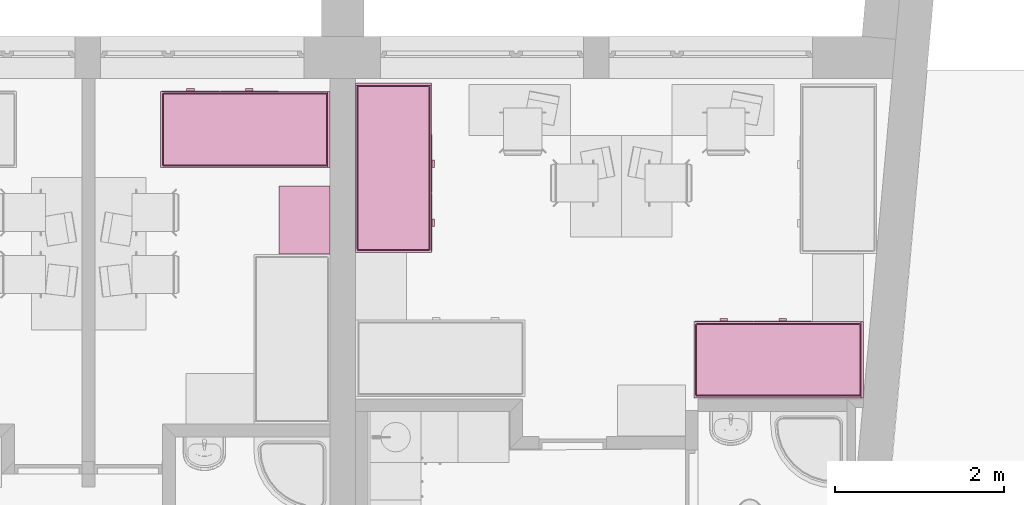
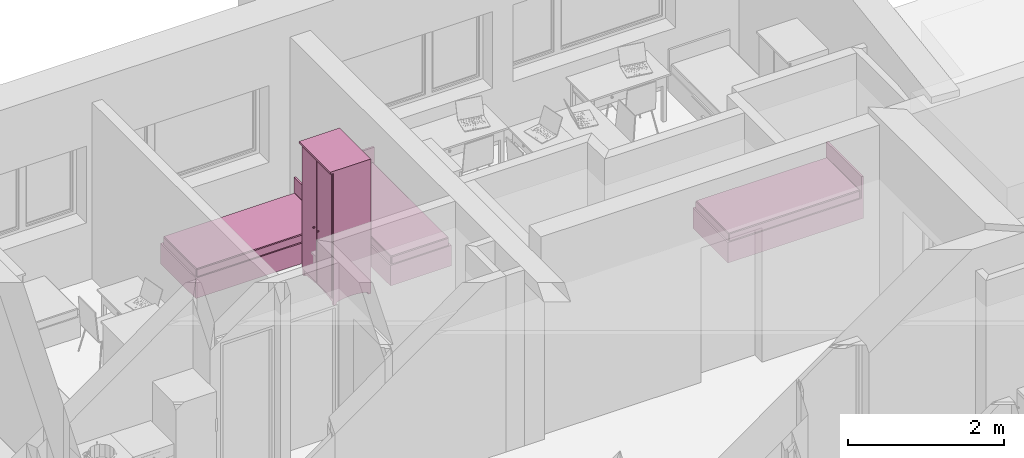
# One storey, part 152 of 172: 4 furnishings.
"""IFC2X3 building model written with IfcOpenShell, lengths in millimetres."""

from ifc_helpers import new_model, entity, si_unit, converted_unit, money_unit, direction, frame, origin_with_axes, place, context, subcontext, project, spatial, faceted_brep, source, transform, mapped, material, material_list, type_object, element, save


model = new_model("IFC2X3")

# Units and contexts
model_context = context("Model", 3, precision=1e-05, world=origin_with_axes(), true_north=direction((0.0, 1.0)))
body_context = subcontext(model_context, "Body", "Model", "MODEL_VIEW")
ifc_project = project(units=[si_unit("LENGTHUNIT", "METRE", prefix="MILLI"), si_unit("AREAUNIT", "SQUARE_METRE"), si_unit("VOLUMEUNIT", "CUBIC_METRE"), converted_unit("PLANEANGLEUNIT", "DEGREE", entity("IfcPlaneAngleMeasure", 0.0174532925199), si_unit("PLANEANGLEUNIT", "RADIAN"), dimensions=[0, 0, 0, 0, 0, 0, 0]), si_unit("SOLIDANGLEUNIT", "STERADIAN"), money_unit("USD"), converted_unit("TIMEUNIT", "Year", entity("IfcTimeMeasure", 31556926.0), si_unit("TIMEUNIT", "SECOND"), dimensions=[0, 0, 0, 0, 0, 0, 0]), si_unit("MASSUNIT", "GRAM"), si_unit("THERMODYNAMICTEMPERATUREUNIT", "DEGREE_CELSIUS"), si_unit("LUMINOUSINTENSITYUNIT", "LUMEN")], contexts=[model_context])

# Site, building, storey
site_placement = place(None, origin_with_axes())
site = spatial("IfcSite", under=ifc_project, at=site_placement, Name="Site", CompositionType="ELEMENT")
building_placement = place(site_placement, origin_with_axes())
building = spatial("IfcBuilding", under=site, at=building_placement, Name="Building", CompositionType="ELEMENT")
storey_placement = place(building_placement, frame((0.0, 0.0, 3200.0), z_axis=(0.0, 0.0, 1.0), x_axis=(1.0, 0.0, 0.0)))
storey = spatial("IfcBuildingStorey", under=building, at=storey_placement, Name="3KORRUS", CompositionType="ELEMENT", Elevation=3200.0)

# Furnishings
ifc_material = material(Name="Background")
ifc_material_list = material_list([ifc_material])
furnishing_element_type_1 = type_object("IfcFurnishingElementType", Name="Bed 19")
shared_shape_1 = source(origin_with_axes(), body_context, "Body", "Brep", [
    faceted_brep([(900.0, 1970.0, 0.0), (0.0, 1970.0, 0.0), (0.0, 2000.0, 0.0), (900.0, 2000.0, 0.0), (900.0, 1970.0, 660.0), (0.0, 1970.0, 660.0), (0.0, 2000.0, 660.0), (900.0, 2000.0, 660.0)], [[[0, 1, 2, 3]], [[1, 0, 4, 5]], [[2, 1, 5, 6]], [[3, 2, 6, 7]], [[0, 3, 7, 4]], [[5, 4, 7, 6]]]),
    faceted_brep([(900.0, 0.0, 0.0), (0.0, 0.0, 0.0), (0.0, 1970.0, 0.0), (900.0, 1970.0, 0.0), (900.0, 0.0, 320.0), (0.0, 0.0, 320.0), (0.0, 1970.0, 320.0), (900.0, 1970.0, 320.0)], [[[0, 1, 2, 3]], [[1, 0, 4, 5]], [[2, 1, 5, 6]], [[3, 2, 6, 7]], [[0, 3, 7, 4]], [[5, 4, 7, 6]]]),
    faceted_brep([(905.0, 10.0, 30.0), (900.0, 10.0, 30.0), (900.0, 695.0, 30.0), (905.0, 695.0, 30.0), (905.0, 10.0, 290.0), (900.0, 10.0, 290.0), (900.0, 695.0, 290.0), (905.0, 695.0, 290.0)], [[[0, 1, 2, 3]], [[1, 0, 4, 5]], [[2, 1, 5, 6]], [[3, 2, 6, 7]], [[0, 3, 7, 4]], [[5, 4, 7, 6]]]),
    faceted_brep([(935.0, 307.5, 150.0), (905.0, 307.5, 150.0), (905.0, 397.5, 150.0), (935.0, 397.5, 150.0), (935.0, 307.5, 170.0), (905.0, 307.5, 170.0), (905.0, 397.5, 170.0), (935.0, 397.5, 170.0)], [[[0, 1, 2, 3]], [[1, 0, 4, 5]], [[2, 1, 5, 6]], [[3, 2, 6, 7]], [[0, 3, 7, 4]], [[5, 4, 7, 6]]]),
    faceted_brep([(905.0, 705.0, 30.0), (900.0, 705.0, 30.0), (900.0, 1390.0, 30.0), (905.0, 1390.0, 30.0), (905.0, 705.0, 290.0), (900.0, 705.0, 290.0), (900.0, 1390.0, 290.0), (905.0, 1390.0, 290.0)], [[[0, 1, 2, 3]], [[1, 0, 4, 5]], [[2, 1, 5, 6]], [[3, 2, 6, 7]], [[0, 3, 7, 4]], [[5, 4, 7, 6]]]),
    faceted_brep([(935.0, 1002.5, 150.0), (905.0, 1002.5, 150.0), (905.0, 1092.5, 150.0), (935.0, 1092.5, 150.0), (935.0, 1002.5, 170.0), (905.0, 1002.5, 170.0), (905.0, 1092.5, 170.0), (935.0, 1092.5, 170.0)], [[[0, 1, 2, 3]], [[1, 0, 4, 5]], [[2, 1, 5, 6]], [[3, 2, 6, 7]], [[0, 3, 7, 4]], [[5, 4, 7, 6]]]),
    faceted_brep([(20.0, 40.0, 350.0), (20.0, 1950.0, 350.0), (21.522, 1957.654, 350.0), (25.858, 1964.142, 350.0), (32.346, 1968.478, 350.0), (40.0, 1970.0, 350.0), (860.0, 1970.0, 350.0), (867.654, 1968.478, 350.0), (874.142, 1964.142, 350.0), (878.478, 1957.654, 350.0), (880.0, 1950.0, 350.0), (880.0, 40.0, 350.0), (878.478, 32.346, 350.0), (874.142, 25.858, 350.0), (867.654, 21.522, 350.0), (860.0, 20.0, 350.0), (40.0, 20.0, 350.0), (32.346, 21.522, 350.0), (25.858, 25.858, 350.0), (21.522, 32.346, 350.0), (20.0, 40.0, 420.0), (20.0, 1950.0, 420.0), (21.522, 1957.654, 420.0), (25.858, 1964.142, 420.0), (32.346, 1968.478, 420.0), (40.0, 1970.0, 420.0), (860.0, 1970.0, 420.0), (867.654, 1968.478, 420.0), (874.142, 1964.142, 420.0), (878.478, 1957.654, 420.0), (880.0, 1950.0, 420.0), (880.0, 40.0, 420.0), (878.478, 32.346, 420.0), (874.142, 25.858, 420.0), (867.654, 21.522, 420.0), (860.0, 20.0, 420.0), (40.0, 20.0, 420.0), (32.346, 21.522, 420.0), (25.858, 25.858, 420.0), (21.522, 32.346, 420.0), (21.522, 40.15, 427.654), (21.522, 1949.85, 427.654), (22.956, 1957.06, 427.654), (26.955, 1963.045, 427.654), (32.94, 1967.044, 427.654), (40.15, 1968.478, 427.654), (859.85, 1968.478, 427.654), (867.06, 1967.044, 427.654), (873.045, 1963.045, 427.654), (877.044, 1957.06, 427.654), (878.478, 1949.85, 427.654), (878.478, 40.15, 427.654), (877.044, 32.94, 427.654), (873.045, 26.955, 427.654), (867.06, 22.956, 427.654), (859.85, 21.522, 427.654), (40.15, 21.522, 427.654), (32.94, 22.956, 427.654), (26.955, 26.955, 427.654), (22.956, 32.94, 427.654), (32.346, 41.216, 438.478), (32.346, 1948.784, 438.478), (33.152, 1952.836, 438.478), (34.759, 1955.241, 438.478), (37.164, 1956.848, 438.478), (41.216, 1957.654, 438.478), (858.784, 1957.654, 438.478), (862.836, 1956.848, 438.478), (865.241, 1955.241, 438.478), (866.848, 1952.836, 438.478), (867.654, 1948.784, 438.478), (867.654, 41.216, 438.478), (866.848, 37.164, 438.478), (865.241, 34.759, 438.478), (862.836, 33.152, 438.478), (858.784, 32.346, 438.478), (41.216, 32.346, 438.478), (37.164, 33.152, 438.478), (34.759, 34.759, 438.478), (33.152, 37.164, 438.478), (40.0, 41.97, 440.0), (40.0, 1948.03, 440.0), (40.327, 1949.673, 440.0), (40.0, 1950.0, 439.924), (41.97, 1950.0, 440.0), (858.03, 1950.0, 440.0), (859.673, 1949.673, 440.0), (860.0, 1950.0, 439.924), (860.0, 1948.03, 440.0), (860.0, 41.97, 440.0), (859.673, 40.327, 440.0), (860.0, 40.0, 439.924), (858.03, 40.0, 440.0), (41.97, 40.0, 440.0), (40.327, 40.327, 440.0), (40.0, 40.0, 439.924)], [[[0, 1, 2, 3, 4, 5, 6, 7, 8, 9, 10, 11, 12, 13, 14, 15, 16, 17, 18, 19]], [[1, 0, 20, 21]], [[2, 1, 21, 22]], [[3, 2, 22, 23]], [[4, 3, 23, 24]], [[5, 4, 24, 25]], [[6, 5, 25, 26]], [[7, 6, 26, 27]], [[8, 7, 27, 28]], [[9, 8, 28, 29]], [[10, 9, 29, 30]], [[11, 10, 30, 31]], [[12, 11, 31, 32]], [[13, 12, 32, 33]], [[14, 13, 33, 34]], [[15, 14, 34, 35]], [[16, 15, 35, 36]], [[17, 16, 36, 37]], [[18, 17, 37, 38]], [[19, 18, 38, 39]], [[0, 19, 39, 20]], [[21, 20, 40, 41]], [[22, 21, 41, 42]], [[23, 22, 42, 43]], [[24, 23, 43, 44]], [[25, 24, 44, 45]], [[26, 25, 45, 46]], [[27, 26, 46, 47]], [[28, 27, 47, 48]], [[29, 28, 48, 49]], [[30, 29, 49, 50]], [[31, 30, 50, 51]], [[32, 31, 51, 52]], [[33, 32, 52, 53]], [[34, 33, 53, 54]], [[35, 34, 54, 55]], [[36, 35, 55, 56]], [[37, 36, 56, 57]], [[38, 37, 57, 58]], [[39, 38, 58, 59]], [[20, 39, 59, 40]], [[41, 40, 60, 61]], [[42, 41, 61, 62]], [[43, 42, 62, 63]], [[44, 43, 63, 64]], [[45, 44, 64, 65]], [[46, 45, 65, 66]], [[47, 46, 66, 67]], [[48, 47, 67, 68]], [[49, 48, 68, 69]], [[50, 49, 69, 70]], [[51, 50, 70, 71]], [[52, 51, 71, 72]], [[53, 52, 72, 73]], [[54, 53, 73, 74]], [[55, 54, 74, 75]], [[56, 55, 75, 76]], [[57, 56, 76, 77]], [[58, 57, 77, 78]], [[59, 58, 78, 79]], [[40, 59, 79, 60]], [[61, 60, 80, 81]], [[62, 61, 81, 82, 83]], [[63, 62, 83]], [[64, 63, 83]], [[65, 64, 83, 82, 84]], [[66, 65, 84, 85]], [[67, 66, 85, 86, 87]], [[68, 67, 87]], [[69, 68, 87]], [[70, 69, 87, 86, 88]], [[71, 70, 88, 89]], [[72, 71, 89, 90, 91]], [[73, 72, 91]], [[74, 73, 91]], [[75, 74, 91, 90, 92]], [[76, 75, 92, 93]], [[77, 76, 93, 94, 95]], [[78, 77, 95]], [[79, 78, 95]], [[60, 79, 95, 94, 80]], [[81, 80, 94, 93, 92, 90, 89, 88, 86, 85, 84, 82]]]),
    faceted_brep([(20.0, 40.0, 350.0), (21.522, 32.346, 350.0), (25.858, 25.858, 350.0), (32.346, 21.522, 350.0), (40.0, 20.0, 350.0), (860.0, 20.0, 350.0), (867.654, 21.522, 350.0), (874.142, 25.858, 350.0), (878.478, 32.346, 350.0), (880.0, 40.0, 350.0), (880.0, 1950.0, 350.0), (878.478, 1957.654, 350.0), (874.142, 1964.142, 350.0), (867.654, 1968.478, 350.0), (860.0, 1970.0, 350.0), (40.0, 1970.0, 350.0), (32.346, 1968.478, 350.0), (25.858, 1964.142, 350.0), (21.522, 1957.654, 350.0), (20.0, 1950.0, 350.0), (20.0, 40.0, 320.0), (21.522, 32.346, 320.0), (25.858, 25.858, 320.0), (32.346, 21.522, 320.0), (40.0, 20.0, 320.0), (860.0, 20.0, 320.0), (867.654, 21.522, 320.0), (874.142, 25.858, 320.0), (878.478, 32.346, 320.0), (880.0, 40.0, 320.0), (880.0, 1950.0, 320.0), (878.478, 1957.654, 320.0), (874.142, 1964.142, 320.0), (867.654, 1968.478, 320.0), (860.0, 1970.0, 320.0), (40.0, 1970.0, 320.0), (32.346, 1968.478, 320.0), (25.858, 1964.142, 320.0), (21.522, 1957.654, 320.0), (20.0, 1950.0, 320.0)], [[[0, 1, 2, 3, 4, 5, 6, 7, 8, 9, 10, 11, 12, 13, 14, 15, 16, 17, 18, 19]], [[0, 20, 21, 1]], [[1, 21, 22, 2]], [[2, 22, 23, 3]], [[3, 23, 24, 4]], [[4, 24, 25, 5]], [[5, 25, 26, 6]], [[6, 26, 27, 7]], [[7, 27, 28, 8]], [[8, 28, 29, 9]], [[9, 29, 30, 10]], [[10, 30, 31, 11]], [[11, 31, 32, 12]], [[12, 32, 33, 13]], [[13, 33, 34, 14]], [[14, 34, 35, 15]], [[15, 35, 36, 16]], [[16, 36, 37, 17]], [[17, 37, 38, 18]], [[18, 38, 39, 19]], [[19, 39, 20, 0]], [[20, 39, 38, 37, 36, 35, 34, 33, 32, 31, 30, 29, 28, 27, 26, 25, 24, 23, 22, 21]]]),
])
furnishing_1_placement = place(storey_placement, frame((12009.7032967, -7190.45351827, 0.0), z_axis=(0.0, 0.0, 1.0), x_axis=(1.0, 0.0, 0.0)))
element("IfcFurnishingElement", 1, at=furnishing_1_placement, inside=storey, type_object=furnishing_element_type_1, material=ifc_material_list, Name="FU - 013", context=body_context, shape_type="MappedRepresentation", body=[
    mapped(shared_shape_1, transform((0.0, 0.0, 0.0))),
])
furnishing_element_type_2 = type_object("IfcFurnishingElementType", Name="Cupboard 19")
shared_shape_2 = source(origin_with_axes(), body_context, "Body", "Brep", [
    faceted_brep([(-780.0, 600.0, 120.0), (-780.0, 580.0, 120.0), (-780.0, 580.0, 2050.0), (-780.0, 600.0, 2050.0), (-20.0, 600.0, 120.0), (-20.0, 580.0, 120.0), (-20.0, 580.0, 2050.0), (-20.0, 600.0, 2050.0)], [[[0, 1, 2, 3]], [[0, 4, 5, 1]], [[1, 5, 6, 2]], [[3, 2, 6, 7]], [[4, 0, 3, 7]], [[5, 4, 7, 6]]]),
    faceted_brep([(0.0, 50.0, 100.0), (-20.0, 50.0, 100.0), (-20.0, 600.0, 100.0), (0.0, 600.0, 100.0), (0.0, 50.0, 2070.0), (-20.0, 50.0, 2070.0), (-20.0, 600.0, 2070.0), (0.0, 600.0, 2070.0)], [[[0, 1, 2, 3]], [[1, 0, 4, 5]], [[2, 1, 5, 6]], [[3, 2, 6, 7]], [[0, 3, 7, 4]], [[5, 4, 7, 6]]]),
    faceted_brep([(-780.0, 50.0, 100.0), (-800.0, 50.0, 100.0), (-800.0, 600.0, 100.0), (-780.0, 600.0, 100.0), (-780.0, 50.0, 2070.0), (-800.0, 50.0, 2070.0), (-800.0, 600.0, 2070.0), (-780.0, 600.0, 2070.0)], [[[0, 1, 2, 3]], [[1, 0, 4, 5]], [[2, 1, 5, 6]], [[3, 2, 6, 7]], [[0, 3, 7, 4]], [[5, 4, 7, 6]]]),
    faceted_brep([(-20.0, 50.0, 100.0), (-780.0, 50.0, 100.0), (-780.0, 600.0, 100.0), (-20.0, 600.0, 100.0), (-20.0, 50.0, 120.0), (-780.0, 50.0, 120.0), (-780.0, 600.0, 120.0), (-20.0, 600.0, 120.0)], [[[0, 1, 2, 3]], [[1, 0, 4, 5]], [[2, 1, 5, 6]], [[3, 2, 6, 7]], [[0, 3, 7, 4]], [[5, 4, 7, 6]]]),
    faceted_brep([(-20.0, 50.0, 2050.0), (-780.0, 50.0, 2050.0), (-780.0, 600.0, 2050.0), (-20.0, 600.0, 2050.0), (-20.0, 50.0, 2070.0), (-780.0, 50.0, 2070.0), (-780.0, 600.0, 2070.0), (-20.0, 600.0, 2070.0)], [[[0, 1, 2, 3]], [[1, 0, 4, 5]], [[2, 1, 5, 6]], [[3, 2, 6, 7]], [[0, 3, 7, 4]], [[5, 4, 7, 6]]]),
    faceted_brep([(0.0, 600.0, 2070.0), (0.0, 600.0, 2100.0), (0.0, 0.0, 2100.0), (0.0, 0.0, 2070.0), (-800.0, 600.0, 2070.0), (-800.0, 600.0, 2100.0), (-800.0, 0.0, 2100.0), (-800.0, 0.0, 2070.0)], [[[0, 1, 2, 3]], [[4, 5, 1, 0]], [[1, 5, 6, 2]], [[3, 2, 6, 7]], [[0, 3, 7, 4]], [[7, 6, 5, 4]]]),
    faceted_brep([(-760.0, 590.0, 25.0), (-640.962, 590.0, 45.8), (-640.962, 570.0, 45.8), (-760.0, 570.0, 25.0), (-760.0, 590.0, 100.0), (-40.0, 590.0, 100.0), (-40.0, 590.0, 25.0), (-159.038, 590.0, 45.8), (-279.23, 590.0, 58.32), (-400.0, 590.0, 62.5), (-520.77, 590.0, 58.32), (-520.77, 570.0, 58.32), (-400.0, 570.0, 62.5), (-279.23, 570.0, 58.32), (-159.038, 570.0, 45.8), (-40.0, 570.0, 25.0), (-40.0, 570.0, 100.0), (-760.0, 570.0, 100.0)], [[[0, 1, 2, 3]], [[0, 4, 5, 6, 7, 8, 9, 10, 1]], [[1, 10, 11, 2]], [[3, 2, 11, 12, 13, 14, 15, 16, 17]], [[4, 0, 3, 17]], [[5, 4, 17, 16]], [[6, 5, 16, 15]], [[7, 6, 15, 14]], [[8, 7, 14, 13]], [[9, 8, 13, 12]], [[10, 9, 12, 11]]]),
    faceted_brep([(-760.0, 80.0, 25.0), (-640.962, 80.0, 45.8), (-640.962, 60.0, 45.8), (-760.0, 60.0, 25.0), (-760.0, 80.0, 100.0), (-40.0, 80.0, 100.0), (-40.0, 80.0, 25.0), (-159.038, 80.0, 45.8), (-279.23, 80.0, 58.32), (-400.0, 80.0, 62.5), (-520.77, 80.0, 58.32), (-520.77, 60.0, 58.32), (-400.0, 60.0, 62.5), (-279.23, 60.0, 58.32), (-159.038, 60.0, 45.8), (-40.0, 60.0, 25.0), (-40.0, 60.0, 100.0), (-760.0, 60.0, 100.0)], [[[0, 1, 2, 3]], [[0, 4, 5, 6, 7, 8, 9, 10, 1]], [[1, 10, 11, 2]], [[3, 2, 11, 12, 13, 14, 15, 16, 17]], [[4, 0, 3, 17]], [[5, 4, 17, 16]], [[6, 5, 16, 15]], [[7, 6, 15, 14]], [[8, 7, 14, 13]], [[9, 8, 13, 12]], [[10, 9, 12, 11]]]),
    faceted_brep([(-790.0, 90.0, 25.0), (-790.0, 141.266, 38.072), (-770.0, 141.266, 38.072), (-770.0, 90.0, 25.0), (-790.0, 90.0, 100.0), (-790.0, 560.0, 100.0), (-790.0, 560.0, 25.0), (-790.0, 508.734, 38.072), (-790.0, 456.752, 47.92), (-790.0, 404.257, 54.508), (-790.0, 351.453, 57.808), (-790.0, 298.547, 57.808), (-790.0, 245.743, 54.508), (-790.0, 193.248, 47.92), (-770.0, 193.248, 47.92), (-770.0, 245.743, 54.508), (-770.0, 298.547, 57.808), (-770.0, 351.453, 57.808), (-770.0, 404.257, 54.508), (-770.0, 456.752, 47.92), (-770.0, 508.734, 38.072), (-770.0, 560.0, 25.0), (-770.0, 560.0, 100.0), (-770.0, 90.0, 100.0)], [[[0, 1, 2, 3]], [[0, 4, 5, 6, 7, 8, 9, 10, 11, 12, 13, 1]], [[1, 13, 14, 2]], [[3, 2, 14, 15, 16, 17, 18, 19, 20, 21, 22, 23]], [[4, 0, 3, 23]], [[5, 4, 23, 22]], [[6, 5, 22, 21]], [[7, 6, 21, 20]], [[8, 7, 20, 19]], [[9, 8, 19, 18]], [[10, 9, 18, 17]], [[11, 10, 17, 16]], [[12, 11, 16, 15]], [[13, 12, 15, 14]]]),
    faceted_brep([(-30.0, 90.0, 25.0), (-30.0, 141.266, 38.072), (-10.0, 141.266, 38.072), (-10.0, 90.0, 25.0), (-30.0, 90.0, 100.0), (-30.0, 560.0, 100.0), (-30.0, 560.0, 25.0), (-30.0, 508.734, 38.072), (-30.0, 456.752, 47.92), (-30.0, 404.257, 54.508), (-30.0, 351.453, 57.808), (-30.0, 298.547, 57.808), (-30.0, 245.743, 54.508), (-30.0, 193.248, 47.92), (-10.0, 193.248, 47.92), (-10.0, 245.743, 54.508), (-10.0, 298.547, 57.808), (-10.0, 351.453, 57.808), (-10.0, 404.257, 54.508), (-10.0, 456.752, 47.92), (-10.0, 508.734, 38.072), (-10.0, 560.0, 25.0), (-10.0, 560.0, 100.0), (-10.0, 90.0, 100.0)], [[[0, 1, 2, 3]], [[0, 4, 5, 6, 7, 8, 9, 10, 11, 12, 13, 1]], [[1, 13, 14, 2]], [[3, 2, 14, 15, 16, 17, 18, 19, 20, 21, 22, 23]], [[4, 0, 3, 23]], [[5, 4, 23, 22]], [[6, 5, 22, 21]], [[7, 6, 21, 20]], [[8, 7, 20, 19]], [[9, 8, 19, 18]], [[10, 9, 18, 17]], [[11, 10, 17, 16]], [[12, 11, 16, 15]], [[13, 12, 15, 14]]]),
    faceted_brep([(-760.0, 560.0, 0.0), (-760.0, 600.0, 0.0), (-760.0, 600.0, 100.0), (-760.0, 560.0, 100.0), (-800.0, 560.0, 0.0), (-800.0, 600.0, 0.0), (-800.0, 600.0, 100.0), (-800.0, 560.0, 100.0)], [[[0, 1, 2, 3]], [[0, 4, 5, 1]], [[1, 5, 6, 2]], [[3, 2, 6, 7]], [[4, 0, 3, 7]], [[5, 4, 7, 6]]]),
    faceted_brep([(0.0, 560.0, 0.0), (0.0, 600.0, 0.0), (0.0, 600.0, 100.0), (0.0, 560.0, 100.0), (-40.0, 560.0, 0.0), (-40.0, 600.0, 0.0), (-40.0, 600.0, 100.0), (-40.0, 560.0, 100.0)], [[[0, 1, 2, 3]], [[0, 4, 5, 1]], [[1, 5, 6, 2]], [[3, 2, 6, 7]], [[4, 0, 3, 7]], [[5, 4, 7, 6]]]),
    faceted_brep([(-760.0, 50.0, 0.0), (-760.0, 90.0, 0.0), (-760.0, 90.0, 100.0), (-760.0, 50.0, 100.0), (-800.0, 50.0, 0.0), (-800.0, 90.0, 0.0), (-800.0, 90.0, 100.0), (-800.0, 50.0, 100.0)], [[[0, 1, 2, 3]], [[0, 4, 5, 1]], [[1, 5, 6, 2]], [[3, 2, 6, 7]], [[4, 0, 3, 7]], [[5, 4, 7, 6]]]),
    faceted_brep([(0.0, 50.0, 0.0), (0.0, 90.0, 0.0), (0.0, 90.0, 100.0), (0.0, 50.0, 100.0), (-40.0, 50.0, 0.0), (-40.0, 90.0, 0.0), (-40.0, 90.0, 100.0), (-40.0, 50.0, 100.0)], [[[0, 1, 2, 3]], [[0, 4, 5, 1]], [[1, 5, 6, 2]], [[3, 2, 6, 7]], [[4, 0, 3, 7]], [[5, 4, 7, 6]]]),
    faceted_brep([(-780.0, 580.0, 587.5), (-780.0, 50.0, 587.5), (-780.0, 50.0, 607.5), (-780.0, 580.0, 607.5), (-20.0, 580.0, 587.5), (-20.0, 50.0, 587.5), (-20.0, 50.0, 607.5), (-20.0, 580.0, 607.5)], [[[0, 1, 2, 3]], [[0, 4, 5, 1]], [[1, 5, 6, 2]], [[3, 2, 6, 7]], [[4, 0, 3, 7]], [[5, 4, 7, 6]]]),
    faceted_brep([(-780.0, 580.0, 1075.0), (-780.0, 50.0, 1075.0), (-780.0, 50.0, 1095.0), (-780.0, 580.0, 1095.0), (-20.0, 580.0, 1075.0), (-20.0, 50.0, 1075.0), (-20.0, 50.0, 1095.0), (-20.0, 580.0, 1095.0)], [[[0, 1, 2, 3]], [[0, 4, 5, 1]], [[1, 5, 6, 2]], [[3, 2, 6, 7]], [[4, 0, 3, 7]], [[5, 4, 7, 6]]]),
    faceted_brep([(-780.0, 580.0, 1562.5), (-780.0, 50.0, 1562.5), (-780.0, 50.0, 1582.5), (-780.0, 580.0, 1582.5), (-20.0, 580.0, 1562.5), (-20.0, 50.0, 1562.5), (-20.0, 50.0, 1582.5), (-20.0, 580.0, 1582.5)], [[[0, 1, 2, 3]], [[0, 4, 5, 1]], [[1, 5, 6, 2]], [[3, 2, 6, 7]], [[4, 0, 3, 7]], [[5, 4, 7, 6]]]),
    faceted_brep([(-789.5, 50.0, 110.5), (-789.5, 50.0, 2059.5), (-400.5, 50.0, 2059.5), (-400.5, 50.0, 110.5), (-789.5, 40.0, 110.5), (-789.5, 40.0, 2059.5), (-400.5, 40.0, 2059.5), (-400.5, 40.0, 110.5), (-779.5, 30.0, 120.5), (-779.5, 30.0, 2049.5), (-410.5, 30.0, 2049.5), (-410.5, 30.0, 120.5)], [[[0, 1, 2, 3]], [[1, 0, 4, 5]], [[2, 1, 5, 6]], [[3, 2, 6, 7]], [[0, 3, 7, 4]], [[5, 4, 8, 9]], [[6, 5, 9, 10]], [[7, 6, 10, 11]], [[4, 7, 11, 8]], [[10, 9, 8, 11]]]),
    faceted_brep([(-399.5, 50.0, 110.5), (-399.5, 50.0, 2059.5), (-10.5, 50.0, 2059.5), (-10.5, 50.0, 110.5), (-399.5, 40.0, 110.5), (-399.5, 40.0, 2059.5), (-10.5, 40.0, 2059.5), (-10.5, 40.0, 110.5), (-389.5, 30.0, 120.5), (-389.5, 30.0, 2049.5), (-20.5, 30.0, 2049.5), (-20.5, 30.0, 120.5)], [[[0, 1, 2, 3]], [[1, 0, 4, 5]], [[2, 1, 5, 6]], [[3, 2, 6, 7]], [[0, 3, 7, 4]], [[5, 4, 8, 9]], [[6, 5, 9, 10]], [[7, 6, 10, 11]], [[4, 7, 11, 8]], [[10, 9, 8, 11]]]),
    faceted_brep([(-339.608, 30.0, 954.0), (-344.0, 30.0, 949.608), (-350.0, 30.0, 948.0), (-356.0, 30.0, 949.608), (-360.392, 30.0, 954.0), (-362.0, 30.0, 960.0), (-360.392, 30.0, 966.0), (-356.0, 30.0, 970.392), (-350.0, 30.0, 972.0), (-344.0, 30.0, 970.392), (-339.608, 30.0, 966.0), (-338.0, 30.0, 960.0), (-339.608, 5.0, 954.0), (-344.0, 5.0, 949.608), (-350.0, 5.0, 948.0), (-356.0, 5.0, 949.608), (-360.392, 5.0, 954.0), (-362.0, 5.0, 960.0), (-360.392, 5.0, 966.0), (-356.0, 5.0, 970.392), (-350.0, 5.0, 972.0), (-344.0, 5.0, 970.392), (-339.608, 5.0, 966.0), (-338.0, 5.0, 960.0)], [[[0, 1, 2, 3, 4, 5, 6, 7, 8, 9, 10, 11]], [[1, 0, 12, 13]], [[2, 1, 13, 14]], [[3, 2, 14, 15]], [[4, 3, 15, 16]], [[5, 4, 16, 17]], [[6, 5, 17, 18]], [[7, 6, 18, 19]], [[8, 7, 19, 20]], [[9, 8, 20, 21]], [[10, 9, 21, 22]], [[11, 10, 22, 23]], [[0, 11, 23, 12]], [[12, 23, 22, 21, 20, 19, 18, 17, 16, 15, 14, 13]]]),
    faceted_brep([(-460.392, 30.0, 954.0), (-462.0, 30.0, 960.0), (-460.392, 30.0, 966.0), (-456.0, 30.0, 970.392), (-450.0, 30.0, 972.0), (-444.0, 30.0, 970.392), (-439.608, 30.0, 966.0), (-438.0, 30.0, 960.0), (-439.608, 30.0, 954.0), (-444.0, 30.0, 949.608), (-450.0, 30.0, 948.0), (-456.0, 30.0, 949.608), (-460.392, 5.0, 954.0), (-462.0, 5.0, 960.0), (-460.392, 5.0, 966.0), (-456.0, 5.0, 970.392), (-450.0, 5.0, 972.0), (-444.0, 5.0, 970.392), (-439.608, 5.0, 966.0), (-438.0, 5.0, 960.0), (-439.608, 5.0, 954.0), (-444.0, 5.0, 949.608), (-450.0, 5.0, 948.0), (-456.0, 5.0, 949.608)], [[[0, 1, 2, 3, 4, 5, 6, 7, 8, 9, 10, 11]], [[0, 12, 13, 1]], [[1, 13, 14, 2]], [[2, 14, 15, 3]], [[3, 15, 16, 4]], [[4, 16, 17, 5]], [[5, 17, 18, 6]], [[6, 18, 19, 7]], [[7, 19, 20, 8]], [[8, 20, 21, 9]], [[9, 21, 22, 10]], [[10, 22, 23, 11]], [[11, 23, 12, 0]], [[12, 23, 22, 21, 20, 19, 18, 17, 16, 15, 14, 13]]]),
])
furnishing_2_placement = place(storey_placement, frame((11109.7032967, -7207.41563755, 0.0), z_axis=(0.0, 0.0, 1.0), x_axis=(0.0, -1.0, 0.0)))
element("IfcFurnishingElement", 2, at=furnishing_2_placement, inside=storey, type_object=furnishing_element_type_2, material=ifc_material_list, Name="FU - 014", context=body_context, shape_type="MappedRepresentation", body=[
    mapped(shared_shape_2, transform((0.0, 0.0, 0.0))),
])
shared_shape_3 = source(origin_with_axes(), body_context, "Body", "Brep", [
    faceted_brep([(-900.0, 1970.0, 0.0), (-900.0, 2000.0, 0.0), (0.0, 2000.0, 0.0), (0.0, 1970.0, 0.0), (-900.0, 1970.0, 660.0), (-900.0, 2000.0, 660.0), (0.0, 2000.0, 660.0), (0.0, 1970.0, 660.0)], [[[0, 1, 2, 3]], [[0, 4, 5, 1]], [[1, 5, 6, 2]], [[2, 6, 7, 3]], [[3, 7, 4, 0]], [[7, 6, 5, 4]]]),
    faceted_brep([(-900.0, 0.0, 0.0), (-900.0, 1970.0, 0.0), (0.0, 1970.0, 0.0), (0.0, 0.0, 0.0), (-900.0, 0.0, 320.0), (-900.0, 1970.0, 320.0), (0.0, 1970.0, 320.0), (0.0, 0.0, 320.0)], [[[0, 1, 2, 3]], [[0, 4, 5, 1]], [[1, 5, 6, 2]], [[2, 6, 7, 3]], [[3, 7, 4, 0]], [[7, 6, 5, 4]]]),
    faceted_brep([(-905.0, 10.0, 30.0), (-905.0, 695.0, 30.0), (-900.0, 695.0, 30.0), (-900.0, 10.0, 30.0), (-905.0, 10.0, 290.0), (-905.0, 695.0, 290.0), (-900.0, 695.0, 290.0), (-900.0, 10.0, 290.0)], [[[0, 1, 2, 3]], [[0, 4, 5, 1]], [[1, 5, 6, 2]], [[2, 6, 7, 3]], [[3, 7, 4, 0]], [[7, 6, 5, 4]]]),
    faceted_brep([(-935.0, 307.5, 150.0), (-935.0, 397.5, 150.0), (-905.0, 397.5, 150.0), (-905.0, 307.5, 150.0), (-935.0, 307.5, 170.0), (-935.0, 397.5, 170.0), (-905.0, 397.5, 170.0), (-905.0, 307.5, 170.0)], [[[0, 1, 2, 3]], [[0, 4, 5, 1]], [[1, 5, 6, 2]], [[2, 6, 7, 3]], [[3, 7, 4, 0]], [[7, 6, 5, 4]]]),
    faceted_brep([(-905.0, 705.0, 30.0), (-905.0, 1390.0, 30.0), (-900.0, 1390.0, 30.0), (-900.0, 705.0, 30.0), (-905.0, 705.0, 290.0), (-905.0, 1390.0, 290.0), (-900.0, 1390.0, 290.0), (-900.0, 705.0, 290.0)], [[[0, 1, 2, 3]], [[0, 4, 5, 1]], [[1, 5, 6, 2]], [[2, 6, 7, 3]], [[3, 7, 4, 0]], [[7, 6, 5, 4]]]),
    faceted_brep([(-935.0, 1002.5, 150.0), (-935.0, 1092.5, 150.0), (-905.0, 1092.5, 150.0), (-905.0, 1002.5, 150.0), (-935.0, 1002.5, 170.0), (-935.0, 1092.5, 170.0), (-905.0, 1092.5, 170.0), (-905.0, 1002.5, 170.0)], [[[0, 1, 2, 3]], [[0, 4, 5, 1]], [[1, 5, 6, 2]], [[2, 6, 7, 3]], [[3, 7, 4, 0]], [[7, 6, 5, 4]]]),
    faceted_brep([(-20.0, 40.0, 350.0), (-21.522, 32.346, 350.0), (-25.858, 25.858, 350.0), (-32.346, 21.522, 350.0), (-40.0, 20.0, 350.0), (-860.0, 20.0, 350.0), (-867.654, 21.522, 350.0), (-874.142, 25.858, 350.0), (-878.478, 32.346, 350.0), (-880.0, 40.0, 350.0), (-880.0, 1950.0, 350.0), (-878.478, 1957.654, 350.0), (-874.142, 1964.142, 350.0), (-867.654, 1968.478, 350.0), (-860.0, 1970.0, 350.0), (-40.0, 1970.0, 350.0), (-32.346, 1968.478, 350.0), (-25.858, 1964.142, 350.0), (-21.522, 1957.654, 350.0), (-20.0, 1950.0, 350.0), (-20.0, 40.0, 420.0), (-21.522, 32.346, 420.0), (-25.858, 25.858, 420.0), (-32.346, 21.522, 420.0), (-40.0, 20.0, 420.0), (-860.0, 20.0, 420.0), (-867.654, 21.522, 420.0), (-874.142, 25.858, 420.0), (-878.478, 32.346, 420.0), (-880.0, 40.0, 420.0), (-880.0, 1950.0, 420.0), (-878.478, 1957.654, 420.0), (-874.142, 1964.142, 420.0), (-867.654, 1968.478, 420.0), (-860.0, 1970.0, 420.0), (-40.0, 1970.0, 420.0), (-32.346, 1968.478, 420.0), (-25.858, 1964.142, 420.0), (-21.522, 1957.654, 420.0), (-20.0, 1950.0, 420.0), (-21.522, 40.15, 427.654), (-22.956, 32.94, 427.654), (-26.955, 26.955, 427.654), (-32.94, 22.956, 427.654), (-40.15, 21.522, 427.654), (-859.85, 21.522, 427.654), (-867.06, 22.956, 427.654), (-873.045, 26.955, 427.654), (-877.044, 32.94, 427.654), (-878.478, 40.15, 427.654), (-878.478, 1949.85, 427.654), (-877.044, 1957.06, 427.654), (-873.045, 1963.045, 427.654), (-867.06, 1967.044, 427.654), (-859.85, 1968.478, 427.654), (-40.15, 1968.478, 427.654), (-32.94, 1967.044, 427.654), (-26.955, 1963.045, 427.654), (-22.956, 1957.06, 427.654), (-21.522, 1949.85, 427.654), (-32.346, 41.216, 438.478), (-33.152, 37.164, 438.478), (-34.759, 34.759, 438.478), (-37.164, 33.152, 438.478), (-41.216, 32.346, 438.478), (-858.784, 32.346, 438.478), (-862.836, 33.152, 438.478), (-865.241, 34.759, 438.478), (-866.848, 37.164, 438.478), (-867.654, 41.216, 438.478), (-867.654, 1948.784, 438.478), (-866.848, 1952.836, 438.478), (-865.241, 1955.241, 438.478), (-862.836, 1956.848, 438.478), (-858.784, 1957.654, 438.478), (-41.216, 1957.654, 438.478), (-37.164, 1956.848, 438.478), (-34.759, 1955.241, 438.478), (-33.152, 1952.836, 438.478), (-32.346, 1948.784, 438.478), (-40.0, 41.97, 440.0), (-40.327, 40.327, 440.0), (-40.0, 40.0, 439.924), (-41.97, 40.0, 440.0), (-858.03, 40.0, 440.0), (-859.673, 40.327, 440.0), (-860.0, 40.0, 439.924), (-860.0, 41.97, 440.0), (-860.0, 1948.03, 440.0), (-859.673, 1949.673, 440.0), (-860.0, 1950.0, 439.924), (-858.03, 1950.0, 440.0), (-41.97, 1950.0, 440.0), (-40.327, 1949.673, 440.0), (-40.0, 1950.0, 439.924), (-40.0, 1948.03, 440.0)], [[[0, 1, 2, 3, 4, 5, 6, 7, 8, 9, 10, 11, 12, 13, 14, 15, 16, 17, 18, 19]], [[0, 20, 21, 1]], [[1, 21, 22, 2]], [[2, 22, 23, 3]], [[3, 23, 24, 4]], [[4, 24, 25, 5]], [[5, 25, 26, 6]], [[6, 26, 27, 7]], [[7, 27, 28, 8]], [[8, 28, 29, 9]], [[9, 29, 30, 10]], [[10, 30, 31, 11]], [[11, 31, 32, 12]], [[12, 32, 33, 13]], [[13, 33, 34, 14]], [[14, 34, 35, 15]], [[15, 35, 36, 16]], [[16, 36, 37, 17]], [[17, 37, 38, 18]], [[18, 38, 39, 19]], [[19, 39, 20, 0]], [[20, 40, 41, 21]], [[21, 41, 42, 22]], [[22, 42, 43, 23]], [[23, 43, 44, 24]], [[24, 44, 45, 25]], [[25, 45, 46, 26]], [[26, 46, 47, 27]], [[27, 47, 48, 28]], [[28, 48, 49, 29]], [[29, 49, 50, 30]], [[30, 50, 51, 31]], [[31, 51, 52, 32]], [[32, 52, 53, 33]], [[33, 53, 54, 34]], [[34, 54, 55, 35]], [[35, 55, 56, 36]], [[36, 56, 57, 37]], [[37, 57, 58, 38]], [[38, 58, 59, 39]], [[39, 59, 40, 20]], [[40, 60, 61, 41]], [[41, 61, 62, 42]], [[42, 62, 63, 43]], [[43, 63, 64, 44]], [[44, 64, 65, 45]], [[45, 65, 66, 46]], [[46, 66, 67, 47]], [[47, 67, 68, 48]], [[48, 68, 69, 49]], [[49, 69, 70, 50]], [[50, 70, 71, 51]], [[51, 71, 72, 52]], [[52, 72, 73, 53]], [[53, 73, 74, 54]], [[54, 74, 75, 55]], [[55, 75, 76, 56]], [[56, 76, 77, 57]], [[57, 77, 78, 58]], [[58, 78, 79, 59]], [[59, 79, 60, 40]], [[60, 80, 81, 82, 61]], [[61, 82, 62]], [[62, 82, 63]], [[63, 82, 81, 83, 64]], [[64, 83, 84, 65]], [[65, 84, 85, 86, 66]], [[66, 86, 67]], [[67, 86, 68]], [[68, 86, 85, 87, 69]], [[69, 87, 88, 70]], [[70, 88, 89, 90, 71]], [[71, 90, 72]], [[72, 90, 73]], [[73, 90, 89, 91, 74]], [[74, 91, 92, 75]], [[75, 92, 93, 94, 76]], [[76, 94, 77]], [[77, 94, 78]], [[78, 94, 93, 95, 79]], [[79, 95, 80, 60]], [[95, 93, 92, 91, 89, 88, 87, 85, 84, 83, 81, 80]]]),
    faceted_brep([(-20.0, 40.0, 350.0), (-20.0, 1950.0, 350.0), (-21.522, 1957.654, 350.0), (-25.858, 1964.142, 350.0), (-32.346, 1968.478, 350.0), (-40.0, 1970.0, 350.0), (-860.0, 1970.0, 350.0), (-867.654, 1968.478, 350.0), (-874.142, 1964.142, 350.0), (-878.478, 1957.654, 350.0), (-880.0, 1950.0, 350.0), (-880.0, 40.0, 350.0), (-878.478, 32.346, 350.0), (-874.142, 25.858, 350.0), (-867.654, 21.522, 350.0), (-860.0, 20.0, 350.0), (-40.0, 20.0, 350.0), (-32.346, 21.522, 350.0), (-25.858, 25.858, 350.0), (-21.522, 32.346, 350.0), (-20.0, 40.0, 320.0), (-20.0, 1950.0, 320.0), (-21.522, 1957.654, 320.0), (-25.858, 1964.142, 320.0), (-32.346, 1968.478, 320.0), (-40.0, 1970.0, 320.0), (-860.0, 1970.0, 320.0), (-867.654, 1968.478, 320.0), (-874.142, 1964.142, 320.0), (-878.478, 1957.654, 320.0), (-880.0, 1950.0, 320.0), (-880.0, 40.0, 320.0), (-878.478, 32.346, 320.0), (-874.142, 25.858, 320.0), (-867.654, 21.522, 320.0), (-860.0, 20.0, 320.0), (-40.0, 20.0, 320.0), (-32.346, 21.522, 320.0), (-25.858, 25.858, 320.0), (-21.522, 32.346, 320.0)], [[[0, 1, 2, 3, 4, 5, 6, 7, 8, 9, 10, 11, 12, 13, 14, 15, 16, 17, 18, 19]], [[1, 0, 20, 21]], [[2, 1, 21, 22]], [[3, 2, 22, 23]], [[4, 3, 23, 24]], [[5, 4, 24, 25]], [[6, 5, 25, 26]], [[7, 6, 26, 27]], [[8, 7, 27, 28]], [[9, 8, 28, 29]], [[10, 9, 29, 30]], [[11, 10, 30, 31]], [[12, 11, 31, 32]], [[13, 12, 32, 33]], [[14, 13, 33, 34]], [[15, 14, 34, 35]], [[16, 15, 35, 36]], [[17, 16, 36, 37]], [[18, 17, 37, 38]], [[19, 18, 38, 39]], [[0, 19, 39, 20]], [[20, 39, 38, 37, 36, 35, 34, 33, 32, 31, 30, 29, 28, 27, 26, 25, 24, 23, 22, 21]]]),
])
for number, where, z_axis, x_axis, name in (
    (3, (9709.70329669, -6189.6041088, 0.0), (0.0, 0.0, 1.0), (0.0, -1.0, 0.0), "FU - 013"),
    (4, (16005.2633787, -8907.54794148, 0.0), (0.0, 0.0, 1.0), (0.0, -1.0, 0.0), "FU - 013"),
):
    element("IfcFurnishingElement", number, at=place(storey_placement, frame(where, z_axis=z_axis, x_axis=x_axis)), inside=storey, type_object=furnishing_element_type_1, material=ifc_material_list, Name=name, context=body_context, shape_type="MappedRepresentation", body=[
        mapped(shared_shape_3, transform((0.0, 0.0, 0.0))),
    ])

save(model, "model.ifc")
